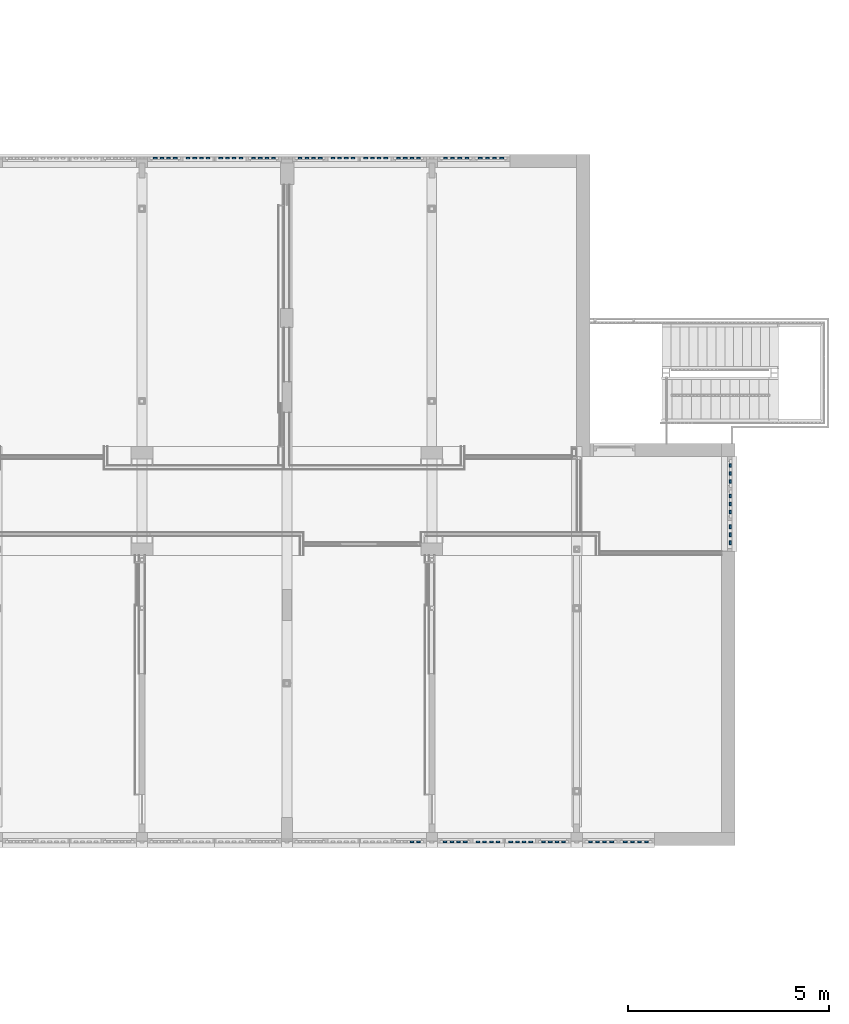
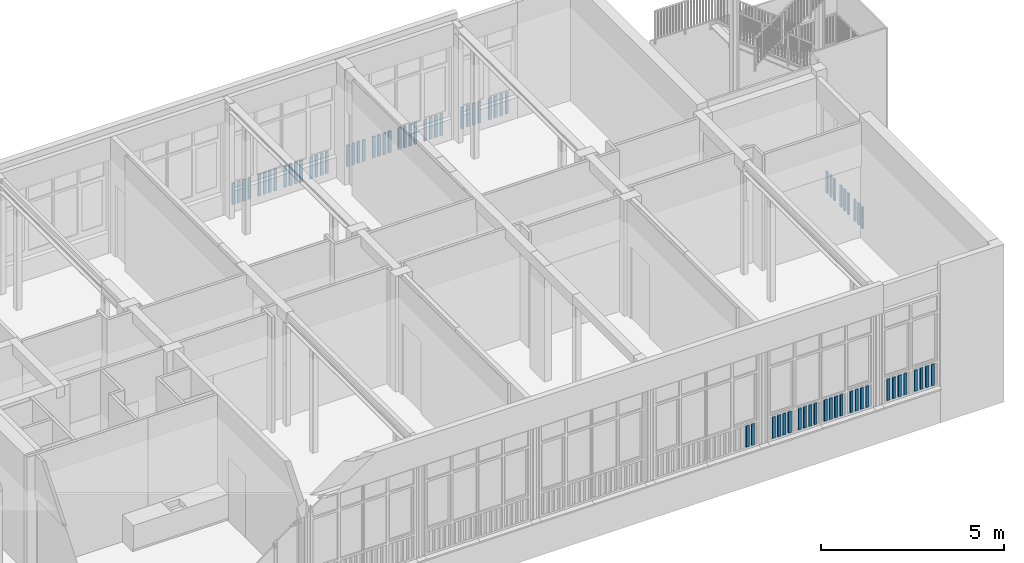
# One storey, part 55 of 135: 75 columns.
"""IFC2X3 building model written with IfcOpenShell, lengths in millimetres."""

from ifc_helpers import new_model, entity, si_unit, converted_unit, derived_unit, money_unit, direction, frame, origin_with_axes, place, context, subcontext, project, spatial, faceted_brep, material, type_object, element, save


model = new_model("IFC2X3")

# Units and contexts
model_context = context("Model", 3, precision=0.01, world=origin_with_axes(), true_north=direction((0.0, 1.0)))
body_context = subcontext(model_context, "Body", "Model", "MODEL_VIEW")
ifc_project = project(units=[si_unit("LENGTHUNIT", "METRE", prefix="MILLI"), si_unit("AREAUNIT", "SQUARE_METRE"), si_unit("VOLUMEUNIT", "CUBIC_METRE"), converted_unit("PLANEANGLEUNIT", "DEGREE", entity("IfcPlaneAngleMeasure", 0.0174532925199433), si_unit("PLANEANGLEUNIT", "RADIAN"), dimensions=[0, 0, 0, 0, 0, 0, 0]), money_unit("EUR"), converted_unit("TIMEUNIT", "Year", entity("IfcTimeMeasure", 31557600.0), si_unit("TIMEUNIT", "SECOND"), dimensions=[0, 0, 1, 0, 0, 0, 0]), si_unit("MASSUNIT", "GRAM", prefix="KILO"), si_unit("THERMODYNAMICTEMPERATUREUNIT", "DEGREE_CELSIUS"), si_unit("LUMINOUSINTENSITYUNIT", "LUMEN"), si_unit("ENERGYUNIT", "JOULE", prefix="MEGA"), derived_unit("THERMALCONDUCTANCEUNIT", [(si_unit("POWERUNIT", "WATT"), 1), (si_unit("LENGTHUNIT", "METRE"), -1), (si_unit("THERMODYNAMICTEMPERATUREUNIT", "KELVIN"), -1)]), derived_unit("SPECIFICHEATCAPACITYUNIT", [(si_unit("ENERGYUNIT", "JOULE"), 1), (si_unit("MASSUNIT", "GRAM", prefix="KILO"), -1), (si_unit("THERMODYNAMICTEMPERATUREUNIT", "KELVIN"), -1)]), derived_unit("MASSDENSITYUNIT", [(si_unit("MASSUNIT", "GRAM", prefix="KILO"), 1), (si_unit("VOLUMEUNIT", "CUBIC_METRE"), -1)])], contexts=[model_context])

# Site, building, storey
site_placement = place(None, origin_with_axes())
site = spatial("IfcSite", under=ifc_project, at=site_placement, Name="Site", CompositionType="ELEMENT")
building_placement = place(site_placement, origin_with_axes())
building = spatial("IfcBuilding", under=site, at=building_placement, Name="Naam gebouw", CompositionType="ELEMENT")
storey_placement = place(building_placement, origin_with_axes())
storey = spatial("IfcBuildingStorey", under=building, at=storey_placement, Name="Begane grond N", CompositionType="ELEMENT", Elevation=0.0)

# Columns
ifc_material = material(Name="Metaal - Staal C")
column_type = type_object("IfcColumnType", Name="Metaal - Staal C 90 x 44", PredefinedType="COLUMN")
for number, where, z_axis, x_axis, name in (
    (1, (50070.91666666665, 10752.91242510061, 66.99999999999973), (0.0, 0.0, 1.0), (1.0, 0.0, 0.0), "_Kolom-x"),
    (2, (49904.80555555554, 10752.91242510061, 66.99999999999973), (0.0, 0.0, 1.0), (1.0, 0.0, 0.0), "_Kolom-x"),
    (3, (50731.58642745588, 10752.91242510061, 66.99999999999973), (0.0, 0.0, 1.0), (1.0, 0.0, 0.0), "_Kolom-x"),
    (4, (50897.69753856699, 10752.91242510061, 66.99999999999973), (0.0, 0.0, 1.0), (1.0, 0.0, 0.0), "_Kolom-x"),
    (5, (51063.80864967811, 10752.91242510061, 66.99999999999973), (0.0, 0.0, 1.0), (1.0, 0.0, 0.0), "_Kolom-x"),
    (6, (51229.91976078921, 10752.91242510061, 66.99999999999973), (0.0, 0.0, 1.0), (1.0, 0.0, 0.0), "_Kolom-x"),
    (7, (51546.08642745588, 10752.91242510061, 66.99999999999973), (0.0, 0.0, 1.0), (1.0, 0.0, 0.0), "_Kolom-x"),
    (8, (51878.3086496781, 10752.91242510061, 66.99999999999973), (0.0, 0.0, 1.0), (1.0, 0.0, 0.0), "_Kolom-x"),
    (9, (52360.58642745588, 10752.91242510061, 66.99999999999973), (0.0, 0.0, 1.0), (1.0, 0.0, 0.0), "_Kolom-x"),
    (10, (52044.41976078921, 10752.91242510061, 66.99999999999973), (0.0, 0.0, 1.0), (1.0, 0.0, 0.0), "_Kolom-x"),
    (11, (52692.8086496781, 10752.91242510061, 66.99999999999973), (0.0, 0.0, 1.0), (1.0, 0.0, 0.0), "_Kolom-x"),
    (12, (51712.19753856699, 10752.91242510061, 66.99999999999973), (0.0, 0.0, 1.0), (1.0, 0.0, 0.0), "_Kolom-x"),
    (13, (52526.69753856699, 10752.91242510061, 66.99999999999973), (0.0, 0.0, 1.0), (1.0, 0.0, 0.0), "_Kolom-x"),
    (14, (52858.91976078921, 10752.91242510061, 66.99999999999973), (0.0, 0.0, 1.0), (1.0, 0.0, 0.0), "_Kolom-x"),
    (15, (53507.3086496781, 10752.91242510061, 66.99999999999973), (0.0, 0.0, 1.0), (1.0, 0.0, 0.0), "_Kolom-x"),
    (16, (53341.19753856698, 10752.91242510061, 66.99999999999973), (0.0, 0.0, 1.0), (1.0, 0.0, 0.0), "_Kolom-x"),
    (17, (53673.4197607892, 10752.91242510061, 66.99999999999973), (0.0, 0.0, 1.0), (1.0, 0.0, 0.0), "_Kolom-x"),
    (18, (54337.74999999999, 10752.91242510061, 66.99999999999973), (0.0, 0.0, 1.0), (1.0, 0.0, 0.0), "_Kolom-x"),
    (19, (54515.41666666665, 10752.91242510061, 66.99999999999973), (0.0, 0.0, 1.0), (1.0, 0.0, 0.0), "_Kolom-x"),
    (20, (54693.08333333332, 10752.91242510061, 66.99999999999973), (0.0, 0.0, 1.0), (1.0, 0.0, 0.0), "_Kolom-x"),
    (21, (53175.08642745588, 10752.91242510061, 66.99999999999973), (0.0, 0.0, 1.0), (1.0, 0.0, 0.0), "_Kolom-x"),
    (22, (54870.74999999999, 10752.91242510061, 66.99999999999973), (0.0, 0.0, 1.0), (1.0, 0.0, 0.0), "_Kolom-x"),
    (23, (55204.24999999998, 10752.91242510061, 66.99999999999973), (0.0, 0.0, 1.0), (1.0, 0.0, 0.0), "_Kolom-x"),
    (24, (55381.91666666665, 10752.91242510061, 66.99999999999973), (0.0, 0.0, 1.0), (1.0, 0.0, 0.0), "_Kolom-x"),
    (25, (55559.58333333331, 10752.91242510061, 66.99999999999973), (0.0, 0.0, 1.0), (1.0, 0.0, 0.0), "_Kolom-x"),
    (26, (55737.24999999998, 10752.91242510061, 66.99999999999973), (0.0, 0.0, 1.0), (1.0, 0.0, 0.0), "_Kolom-x"),
):
    element("IfcColumn", number, at=place(storey_placement, frame(where, z_axis=z_axis, x_axis=x_axis)), inside=storey, type_object=column_type, material=ifc_material, Name=name, ObjectType="COLUMN", context=body_context, shape_type="Brep", body=[
        faceted_brep([(-45.00000000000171, -22.00000000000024, 715.9999999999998), (-45.00000000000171, -22.00000000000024, 0.0), (45.00000000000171, -22.00000000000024, 0.0), (45.00000000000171, -22.00000000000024, 715.9999999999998), (-45.00000000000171, 22.00000000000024, 715.9999999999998), (-45.00000000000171, 22.00000000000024, 0.0), (45.00000000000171, 22.00000000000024, 0.0), (45.00000000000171, 22.00000000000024, 715.9999999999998)], [[[0, 1, 2, 3]], [[4, 5, 1, 0]], [[2, 1, 5, 6]], [[3, 2, 6, 7]], [[4, 0, 3, 7]], [[7, 6, 5, 4]]]),
    ])
for number, where, z_axis, x_axis, name in (
    (27, (57815.99999999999, 20109.84099652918, 67.00000000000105), (0.0, 0.0, 1.0), (0.0, 1.0, 0.0), "_Kolom-x"),
    (28, (57815.99999999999, 19911.07909176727, 67.00000000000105), (0.0, 0.0, 1.0), (0.0, 1.0, 0.0), "_Kolom-x"),
    (29, (57815.99999999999, 19712.31718700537, 67.00000000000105), (0.0, 0.0, 1.0), (0.0, 1.0, 0.0), "_Kolom-x"),
):
    element("IfcColumn", number, at=place(storey_placement, frame(where, z_axis=z_axis, x_axis=x_axis)), inside=storey, type_object=column_type, material=ifc_material, Name=name, ObjectType="COLUMN", context=body_context, shape_type="Brep", body=[
        faceted_brep([(-45.00000000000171, -21.99999999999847, 715.9999999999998), (-45.00000000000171, -21.99999999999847, 0.0), (45.00000000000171, -21.99999999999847, 0.0), (45.00000000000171, -21.99999999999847, 715.9999999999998), (-45.00000000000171, 21.99999999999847, 715.9999999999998), (-45.00000000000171, 21.99999999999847, 0.0), (45.00000000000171, 21.99999999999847, 0.0), (45.00000000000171, 21.99999999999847, 715.9999999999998)], [[[0, 1, 2, 3]], [[4, 5, 1, 0]], [[2, 1, 5, 6]], [[3, 2, 6, 7]], [[4, 0, 3, 7]], [[7, 6, 5, 4]]]),
    ])
for number, where, z_axis, x_axis, name in (
    (30, (57815.99999999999, 18949.6505203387, 67.00000000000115), (0.0, 0.0, 1.0), (0.0, 1.0, 0.0), "_Kolom-x"),
    (31, (57815.99999999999, 19148.41242510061, 67.00000000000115), (0.0, 0.0, 1.0), (0.0, 1.0, 0.0), "_Kolom-x"),
    (32, (57815.99999999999, 19347.17432986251, 67.00000000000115), (0.0, 0.0, 1.0), (0.0, 1.0, 0.0), "_Kolom-x"),
):
    element("IfcColumn", number, at=place(storey_placement, frame(where, z_axis=z_axis, x_axis=x_axis)), inside=storey, type_object=column_type, material=ifc_material, Name=name, ObjectType="COLUMN", context=body_context, shape_type="Brep", body=[
        faceted_brep([(-45.00000000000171, -21.99999999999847, 715.9999999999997), (-45.00000000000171, -21.99999999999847, 0.0), (45.00000000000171, -21.99999999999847, 0.0), (45.00000000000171, -21.99999999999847, 715.9999999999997), (-45.00000000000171, 21.99999999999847, 715.9999999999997), (-45.00000000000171, 21.99999999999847, 0.0), (45.00000000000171, 21.99999999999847, 0.0), (45.00000000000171, 21.99999999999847, 715.9999999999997)], [[[0, 1, 2, 3]], [[4, 5, 1, 0]], [[2, 1, 5, 6]], [[3, 2, 6, 7]], [[4, 0, 3, 7]], [[7, 6, 5, 4]]]),
    ])
for number, where, z_axis, x_axis, name in (
    (33, (57815.99999999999, 18186.98385367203, 67.00000000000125), (0.0, 0.0, 1.0), (0.0, 1.0, 0.0), "_Kolom-x"),
    (34, (57815.99999999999, 18584.50766319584, 67.00000000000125), (0.0, 0.0, 1.0), (0.0, 1.0, 0.0), "_Kolom-x"),
):
    element("IfcColumn", number, at=place(storey_placement, frame(where, z_axis=z_axis, x_axis=x_axis)), inside=storey, type_object=column_type, material=ifc_material, Name=name, ObjectType="COLUMN", context=body_context, shape_type="Brep", body=[
        faceted_brep([(-45.00000000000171, -21.99999999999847, 715.9999999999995), (-45.00000000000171, -21.99999999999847, 0.0), (45.00000000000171, -21.99999999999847, 0.0), (45.00000000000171, -21.99999999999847, 715.9999999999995), (-45.00000000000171, 21.99999999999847, 715.9999999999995), (-45.00000000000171, 21.99999999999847, 0.0), (45.00000000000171, 21.99999999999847, 0.0), (45.00000000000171, 21.99999999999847, 715.9999999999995)], [[[0, 1, 2, 3]], [[4, 5, 1, 0]], [[2, 1, 5, 6]], [[3, 2, 6, 7]], [[4, 0, 3, 7]], [[7, 6, 5, 4]]]),
    ])
for number, where, z_axis, x_axis, name in (
    (35, (49256.41666666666, 27743.91242510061, 67.0), (0.0, 0.0, 1.0), (-1.0, 0.0, 0.0), "_Kolom-x"),
    (36, (49090.30555555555, 27743.91242510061, 67.0), (0.0, 0.0, 1.0), (-1.0, 0.0, 0.0), "_Kolom-x"),
):
    element("IfcColumn", number, at=place(storey_placement, frame(where, z_axis=z_axis, x_axis=x_axis)), inside=storey, type_object=column_type, material=ifc_material, Name=name, ObjectType="COLUMN", context=body_context, shape_type="Brep", body=[
        faceted_brep([(-45.00000000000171, -21.99999999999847, 716.0), (-45.00000000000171, -21.99999999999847, 0.0), (45.00000000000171, -21.99999999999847, 0.0), (45.00000000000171, -21.99999999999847, 716.0), (-45.00000000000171, 21.99999999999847, 716.0), (-45.00000000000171, 21.99999999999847, 0.0), (45.00000000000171, 21.99999999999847, 0.0), (45.00000000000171, 21.99999999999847, 716.0)], [[[0, 1, 2, 3]], [[4, 5, 1, 0]], [[2, 1, 5, 6]], [[3, 2, 6, 7]], [[4, 0, 3, 7]], [[7, 6, 5, 4]]]),
    ])
column_1_placement = place(storey_placement, frame((57815.99999999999, 18385.74575843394, 67.00000000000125), z_axis=(0.0, 0.0, 1.0), x_axis=(0.0, 1.0, 0.0)))
element("IfcColumn", 37, at=column_1_placement, inside=storey, type_object=column_type, material=ifc_material, Name="_Kolom-x", ObjectType="COLUMN", context=body_context, shape_type="Brep", body=[
    faceted_brep([(-45.00000000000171, -21.99999999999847, 715.9999999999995), (-45.00000000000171, -21.99999999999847, 0.0), (45.00000000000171, -21.99999999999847, 0.0), (45.00000000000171, -21.99999999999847, 715.9999999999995), (-45.00000000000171, 21.99999999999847, 715.9999999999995), (-45.00000000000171, 21.99999999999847, 0.0), (45.00000000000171, 21.99999999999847, 0.0), (45.00000000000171, 21.99999999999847, 715.9999999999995)], [[[0, 1, 2, 3]], [[4, 5, 1, 0]], [[2, 1, 5, 6]], [[3, 2, 6, 7]], [[4, 0, 3, 7]], [[7, 6, 5, 4]]]),
])
for number, where, z_axis, x_axis, name in (
    (38, (48924.19444444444, 27743.91242510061, 67.0), (0.0, 0.0, 1.0), (-1.0, 0.0, 0.0), "_Kolom-x"),
    (39, (48758.08333333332, 27743.91242510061, 67.0), (0.0, 0.0, 1.0), (-1.0, 0.0, 0.0), "_Kolom-x"),
):
    element("IfcColumn", number, at=place(storey_placement, frame(where, z_axis=z_axis, x_axis=x_axis)), inside=storey, type_object=column_type, material=ifc_material, Name=name, ObjectType="COLUMN", context=body_context, shape_type="Brep", body=[
        faceted_brep([(-45.00000000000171, -21.99999999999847, 716.0), (-45.00000000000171, -21.99999999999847, 0.0), (45.00000000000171, -21.99999999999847, 0.0), (45.00000000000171, -21.99999999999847, 716.0), (-45.00000000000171, 21.99999999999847, 716.0), (-45.00000000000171, 21.99999999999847, 0.0), (45.00000000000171, 21.99999999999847, 0.0), (45.00000000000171, 21.99999999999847, 716.0)], [[[0, 1, 2, 3]], [[4, 5, 1, 0]], [[2, 1, 5, 6]], [[3, 2, 6, 7]], [[4, 0, 3, 7]], [[7, 6, 5, 4]]]),
    ])
for number, where, z_axis, x_axis, name in (
    (40, (50070.91666666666, 27743.91242510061, 67.00000000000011), (0.0, 0.0, 1.0), (-1.0, 0.0, 0.0), "_Kolom-x"),
    (41, (49904.80555555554, 27743.91242510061, 67.00000000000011), (0.0, 0.0, 1.0), (-1.0, 0.0, 0.0), "_Kolom-x"),
    (42, (49738.69444444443, 27743.91242510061, 67.00000000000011), (0.0, 0.0, 1.0), (-1.0, 0.0, 0.0), "_Kolom-x"),
    (43, (49572.58333333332, 27743.91242510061, 67.00000000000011), (0.0, 0.0, 1.0), (-1.0, 0.0, 0.0), "_Kolom-x"),
):
    element("IfcColumn", number, at=place(storey_placement, frame(where, z_axis=z_axis, x_axis=x_axis)), inside=storey, type_object=column_type, material=ifc_material, Name=name, ObjectType="COLUMN", context=body_context, shape_type="Brep", body=[
        faceted_brep([(-45.00000000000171, -21.99999999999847, 715.9999999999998), (-45.00000000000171, -21.99999999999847, 0.0), (45.00000000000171, -21.99999999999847, 0.0), (45.00000000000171, -21.99999999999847, 715.9999999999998), (-45.00000000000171, 21.99999999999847, 715.9999999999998), (-45.00000000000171, 21.99999999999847, 0.0), (45.00000000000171, 21.99999999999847, 0.0), (45.00000000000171, 21.99999999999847, 715.9999999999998)], [[[0, 1, 2, 3]], [[4, 5, 1, 0]], [[2, 1, 5, 6]], [[3, 2, 6, 7]], [[4, 0, 3, 7]], [[7, 6, 5, 4]]]),
    ])
for number, where, z_axis, x_axis, name in (
    (44, (47627.41666666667, 27743.91242510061, 67.0), (0.0, 0.0, 1.0), (-1.0, 0.0, 0.0), "_Kolom-x"),
    (45, (47461.30555555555, 27743.91242510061, 67.0), (0.0, 0.0, 1.0), (-1.0, 0.0, 0.0), "_Kolom-x"),
    (46, (47129.08333333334, 27743.91242510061, 67.0), (0.0, 0.0, 1.0), (-1.0, 0.0, 0.0), "_Kolom-x"),
):
    element("IfcColumn", number, at=place(storey_placement, frame(where, z_axis=z_axis, x_axis=x_axis)), inside=storey, type_object=column_type, material=ifc_material, Name=name, ObjectType="COLUMN", context=body_context, shape_type="Brep", body=[
        faceted_brep([(-45.00000000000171, -21.99999999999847, 716.0), (-45.00000000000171, -21.99999999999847, 0.0), (45.00000000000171, -21.99999999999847, 0.0), (45.00000000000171, -21.99999999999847, 716.0), (-45.00000000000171, 21.99999999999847, 716.0), (-45.00000000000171, 21.99999999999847, 0.0), (45.00000000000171, 21.99999999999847, 0.0), (45.00000000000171, 21.99999999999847, 716.0)], [[[0, 1, 2, 3]], [[4, 5, 1, 0]], [[2, 1, 5, 6]], [[3, 2, 6, 7]], [[4, 0, 3, 7]], [[7, 6, 5, 4]]]),
    ])
for number, where, z_axis, x_axis, name in (
    (47, (48275.80555555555, 27743.91242510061, 67.00000000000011), (0.0, 0.0, 1.0), (-1.0, 0.0, 0.0), "_Kolom-x"),
    (48, (48441.91666666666, 27743.91242510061, 67.00000000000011), (0.0, 0.0, 1.0), (-1.0, 0.0, 0.0), "_Kolom-x"),
    (49, (48109.69444444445, 27743.91242510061, 67.00000000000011), (0.0, 0.0, 1.0), (-1.0, 0.0, 0.0), "_Kolom-x"),
):
    element("IfcColumn", number, at=place(storey_placement, frame(where, z_axis=z_axis, x_axis=x_axis)), inside=storey, type_object=column_type, material=ifc_material, Name=name, ObjectType="COLUMN", context=body_context, shape_type="Brep", body=[
        faceted_brep([(-45.00000000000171, -21.99999999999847, 715.9999999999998), (-45.00000000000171, -21.99999999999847, 0.0), (45.00000000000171, -21.99999999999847, 0.0), (45.00000000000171, -21.99999999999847, 715.9999999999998), (-45.00000000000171, 21.99999999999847, 715.9999999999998), (-45.00000000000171, 21.99999999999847, 0.0), (45.00000000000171, 21.99999999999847, 0.0), (45.00000000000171, 21.99999999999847, 715.9999999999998)], [[[0, 1, 2, 3]], [[4, 5, 1, 0]], [[2, 1, 5, 6]], [[3, 2, 6, 7]], [[4, 0, 3, 7]], [[7, 6, 5, 4]]]),
    ])
column_2_placement = place(storey_placement, frame((47295.19444444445, 27743.91242510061, 67.0), z_axis=(0.0, 0.0, 1.0), x_axis=(-1.0, 0.0, 0.0)))
element("IfcColumn", 50, at=column_2_placement, inside=storey, type_object=column_type, material=ifc_material, Name="_Kolom-x", ObjectType="COLUMN", context=body_context, shape_type="Brep", body=[
    faceted_brep([(-45.00000000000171, -21.99999999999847, 716.0), (-45.00000000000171, -21.99999999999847, 0.0), (45.00000000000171, -21.99999999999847, 0.0), (45.00000000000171, -21.99999999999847, 716.0), (-45.00000000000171, 21.99999999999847, 716.0), (-45.00000000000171, 21.99999999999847, 0.0), (45.00000000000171, 21.99999999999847, 0.0), (45.00000000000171, 21.99999999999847, 716.0)], [[[0, 1, 2, 3]], [[4, 5, 1, 0]], [[2, 1, 5, 6]], [[3, 2, 6, 7]], [[4, 0, 3, 7]], [[7, 6, 5, 4]]]),
])
column_3_placement = place(storey_placement, frame((47943.58333333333, 27743.91242510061, 67.00000000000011), z_axis=(0.0, 0.0, 1.0), x_axis=(-1.0, 0.0, 0.0)))
element("IfcColumn", 51, at=column_3_placement, inside=storey, type_object=column_type, material=ifc_material, Name="_Kolom-x", ObjectType="COLUMN", context=body_context, shape_type="Brep", body=[
    faceted_brep([(-45.00000000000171, -21.99999999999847, 715.9999999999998), (-45.00000000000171, -21.99999999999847, 0.0), (45.00000000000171, -21.99999999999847, 0.0), (45.00000000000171, -21.99999999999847, 715.9999999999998), (-45.00000000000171, 21.99999999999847, 715.9999999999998), (-45.00000000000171, 21.99999999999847, 0.0), (45.00000000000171, 21.99999999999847, 0.0), (45.00000000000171, 21.99999999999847, 715.9999999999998)], [[[0, 1, 2, 3]], [[4, 5, 1, 0]], [[2, 1, 5, 6]], [[3, 2, 6, 7]], [[4, 0, 3, 7]], [[7, 6, 5, 4]]]),
])
for number, where, z_axis, x_axis, name in (
    (52, (46470.91666666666, 27743.91242510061, 67.0), (0.0, 0.0, 1.0), (-1.0, 0.0, 0.0), "_Kolom-x"),
    (53, (46138.69444444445, 27743.91242510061, 67.0), (0.0, 0.0, 1.0), (-1.0, 0.0, 0.0), "_Kolom-x"),
    (54, (46304.80555555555, 27743.91242510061, 67.0), (0.0, 0.0, 1.0), (-1.0, 0.0, 0.0), "_Kolom-x"),
    (55, (45972.58333333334, 27743.91242510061, 67.0), (0.0, 0.0, 1.0), (-1.0, 0.0, 0.0), "_Kolom-x"),
    (56, (45656.41666666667, 27743.91242510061, 67.0), (0.0, 0.0, 1.0), (-1.0, 0.0, 0.0), "_Kolom-x"),
    (57, (45490.30555555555, 27743.91242510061, 67.0), (0.0, 0.0, 1.0), (-1.0, 0.0, 0.0), "_Kolom-x"),
    (58, (45324.19444444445, 27743.91242510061, 67.0), (0.0, 0.0, 1.0), (-1.0, 0.0, 0.0), "_Kolom-x"),
    (59, (45158.08333333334, 27743.91242510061, 67.0), (0.0, 0.0, 1.0), (-1.0, 0.0, 0.0), "_Kolom-x"),
    (60, (44675.80555555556, 27743.91242510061, 67.0), (0.0, 0.0, 1.0), (-1.0, 0.0, 0.0), "_Kolom-x"),
    (61, (44509.69444444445, 27743.91242510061, 67.0), (0.0, 0.0, 1.0), (-1.0, 0.0, 0.0), "_Kolom-x"),
    (62, (44343.58333333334, 27743.91242510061, 67.0), (0.0, 0.0, 1.0), (-1.0, 0.0, 0.0), "_Kolom-x"),
    (63, (44027.41666666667, 27743.91242510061, 67.0), (0.0, 0.0, 1.0), (-1.0, 0.0, 0.0), "_Kolom-x"),
    (64, (43861.30555555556, 27743.91242510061, 67.0), (0.0, 0.0, 1.0), (-1.0, 0.0, 0.0), "_Kolom-x"),
    (65, (43695.19444444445, 27743.91242510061, 67.0), (0.0, 0.0, 1.0), (-1.0, 0.0, 0.0), "_Kolom-x"),
):
    element("IfcColumn", number, at=place(storey_placement, frame(where, z_axis=z_axis, x_axis=x_axis)), inside=storey, type_object=column_type, material=ifc_material, Name=name, ObjectType="COLUMN", context=body_context, shape_type="Brep", body=[
        faceted_brep([(-45.00000000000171, -21.99999999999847, 716.0), (-45.00000000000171, -21.99999999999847, 0.0), (45.00000000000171, -21.99999999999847, 0.0), (45.00000000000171, -21.99999999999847, 716.0), (-45.00000000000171, 21.99999999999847, 716.0), (-45.00000000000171, 21.99999999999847, 0.0), (45.00000000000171, 21.99999999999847, 0.0), (45.00000000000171, 21.99999999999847, 716.0)], [[[0, 1, 2, 3]], [[4, 5, 1, 0]], [[2, 1, 5, 6]], [[3, 2, 6, 7]], [[4, 0, 3, 7]], [[7, 6, 5, 4]]]),
    ])
column_4_placement = place(storey_placement, frame((43529.08333333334, 27743.91242510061, 67.0), z_axis=(0.0, 0.0, 1.0), x_axis=(-1.0, 0.0, 0.0)))
element("IfcColumn", 66, at=column_4_placement, inside=storey, type_object=column_type, material=ifc_material, Name="_Kolom-x", ObjectType="COLUMN", context=body_context, shape_type="Brep", body=[
    faceted_brep([(-45.00000000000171, -21.99999999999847, 716.0), (-45.00000000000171, -21.99999999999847, 0.0), (45.00000000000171, -21.99999999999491, 0.0), (45.00000000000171, -21.99999999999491, 716.0), (-45.00000000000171, 21.99999999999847, 716.0), (-45.00000000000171, 21.99999999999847, 0.0), (45.00000000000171, 22.00000000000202, 0.0), (45.00000000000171, 22.00000000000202, 716.0)], [[[0, 1, 2, 3]], [[4, 5, 1, 0]], [[2, 1, 5, 6]], [[3, 2, 6, 7]], [[4, 0, 3, 7]], [[7, 6, 5, 4]]]),
])
for number, where, z_axis, x_axis, name in (
    (67, (51270.75, 27743.91242510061, 67.00000000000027), (0.0, 0.0, 1.0), (-1.0, 0.0, 0.0), "_Kolom-x"),
    (68, (51093.08333333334, 27743.91242510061, 67.00000000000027), (0.0, 0.0, 1.0), (-1.0, 0.0, 0.0), "_Kolom-x"),
    (69, (50915.41666666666, 27743.91242510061, 67.00000000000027), (0.0, 0.0, 1.0), (-1.0, 0.0, 0.0), "_Kolom-x"),
    (70, (50737.75, 27743.91242510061, 67.00000000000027), (0.0, 0.0, 1.0), (-1.0, 0.0, 0.0), "_Kolom-x"),
):
    element("IfcColumn", number, at=place(storey_placement, frame(where, z_axis=z_axis, x_axis=x_axis)), inside=storey, type_object=column_type, material=ifc_material, Name=name, ObjectType="COLUMN", context=body_context, shape_type="Brep", body=[
        faceted_brep([(-45.00000000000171, -21.99999999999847, 715.9999999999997), (-45.00000000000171, -21.99999999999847, 0.0), (45.00000000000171, -21.99999999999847, 0.0), (45.00000000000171, -21.99999999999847, 715.9999999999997), (-45.00000000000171, 21.99999999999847, 715.9999999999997), (-45.00000000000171, 21.99999999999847, 0.0), (45.00000000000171, 21.99999999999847, 0.0), (45.00000000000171, 21.99999999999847, 715.9999999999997)], [[[0, 1, 2, 3]], [[4, 5, 1, 0]], [[2, 1, 5, 6]], [[3, 2, 6, 7]], [[4, 0, 3, 7]], [[7, 6, 5, 4]]]),
    ])
column_5_placement = place(storey_placement, frame((52137.25, 27743.91242510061, 67.00000000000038), z_axis=(0.0, 0.0, 1.0), x_axis=(-1.0, 0.0, 0.0)))
element("IfcColumn", 71, at=column_5_placement, inside=storey, type_object=column_type, material=ifc_material, Name="_Kolom-x", ObjectType="COLUMN", context=body_context, shape_type="Brep", body=[
    faceted_brep([(-45.00000000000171, -21.99999999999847, 715.9999999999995), (-45.00000000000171, -21.99999999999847, 0.0), (45.00000000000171, -21.99999999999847, 0.0), (45.00000000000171, -21.99999999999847, 715.9999999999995), (-45.00000000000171, 21.99999999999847, 715.9999999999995), (-45.00000000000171, 21.99999999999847, 0.0), (45.00000000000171, 21.99999999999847, 0.0), (45.00000000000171, 21.99999999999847, 715.9999999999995)], [[[0, 1, 2, 3]], [[4, 5, 1, 0]], [[2, 1, 5, 6]], [[3, 2, 6, 7]], [[4, 0, 3, 7]], [[7, 6, 5, 4]]]),
])
column_6_placement = place(storey_placement, frame((44841.91666666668, 27743.91242510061, 67.0), z_axis=(0.0, 0.0, 1.0), x_axis=(-1.0, 0.0, 0.0)))
element("IfcColumn", 72, at=column_6_placement, inside=storey, type_object=column_type, material=ifc_material, Name="_Kolom-x", ObjectType="COLUMN", context=body_context, shape_type="Brep", body=[
    faceted_brep([(-45.00000000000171, -21.99999999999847, 716.0), (-45.00000000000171, -21.99999999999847, 0.0), (45.00000000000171, -21.99999999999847, 0.0), (45.00000000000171, -21.99999999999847, 716.0), (-45.00000000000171, 21.99999999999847, 716.0), (-45.00000000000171, 21.99999999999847, 0.0), (45.00000000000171, 21.99999999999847, 0.0), (45.00000000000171, 21.99999999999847, 716.0)], [[[0, 1, 2, 3]], [[4, 5, 1, 0]], [[2, 1, 5, 6]], [[3, 2, 6, 7]], [[4, 0, 3, 7]], [[7, 6, 5, 4]]]),
])
for number, where, z_axis, x_axis, name in (
    (73, (51959.58333333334, 27743.91242510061, 67.00000000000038), (0.0, 0.0, 1.0), (-1.0, 0.0, 0.0), "_Kolom-x"),
    (74, (51781.91666666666, 27743.91242510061, 67.00000000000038), (0.0, 0.0, 1.0), (-1.0, 0.0, 0.0), "_Kolom-x"),
    (75, (51604.25, 27743.91242510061, 67.00000000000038), (0.0, 0.0, 1.0), (-1.0, 0.0, 0.0), "_Kolom-x"),
):
    element("IfcColumn", number, at=place(storey_placement, frame(where, z_axis=z_axis, x_axis=x_axis)), inside=storey, type_object=column_type, material=ifc_material, Name=name, ObjectType="COLUMN", context=body_context, shape_type="Brep", body=[
        faceted_brep([(-45.00000000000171, -21.99999999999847, 715.9999999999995), (-45.00000000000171, -21.99999999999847, 0.0), (45.00000000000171, -21.99999999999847, 0.0), (45.00000000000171, -21.99999999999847, 715.9999999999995), (-45.00000000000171, 21.99999999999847, 715.9999999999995), (-45.00000000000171, 21.99999999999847, 0.0), (45.00000000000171, 21.99999999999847, 0.0), (45.00000000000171, 21.99999999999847, 715.9999999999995)], [[[0, 1, 2, 3]], [[4, 5, 1, 0]], [[2, 1, 5, 6]], [[3, 2, 6, 7]], [[4, 0, 3, 7]], [[7, 6, 5, 4]]]),
    ])

save(model, "model.ifc")
